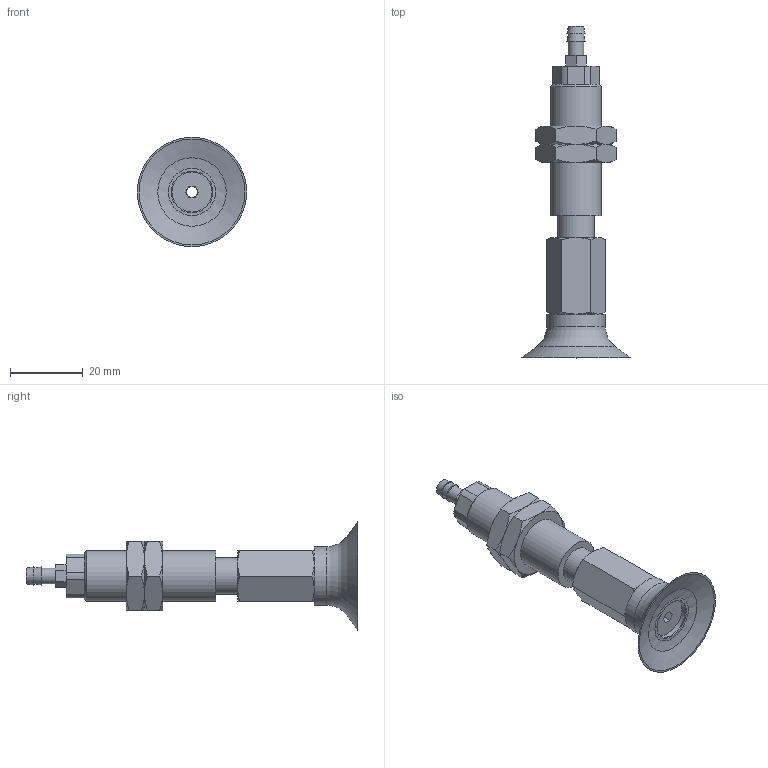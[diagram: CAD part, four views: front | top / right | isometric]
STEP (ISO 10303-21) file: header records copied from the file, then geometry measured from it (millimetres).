
FILE_DESCRIPTION(('STEP AP203'),'1');
FILE_NAME('-T.stp','2025-08-27T06:00:54',(' '),(' '),'Spatial InterOp 3D',' ',' ');
FILE_SCHEMA(('CONFIG_CONTROL_DESIGN'));
Length unit declared in the file: millimetre
Products named in the file (8): BNABPFTS-30-6-※-T; ADAPTER; NAPFTS-30-6-MBODY; TN-PF-30-M6-NAPF; Nut-30-6-s; NAPFTS-30-6-FBODY; BPFG-30-※; T
Assembly tree (8 placements, depth 2):
  BNABPFTS-30-6-※-T
    ADAPTER
    NAPFTS-30-6-MBODY
    TN-PF-30-M6-NAPF
    Nut-30-6-s  x2
    NAPFTS-30-6-FBODY
    BPFG-30-※
    T
Bounding box: 30 x 91 x 30 mm (x, y, z)
Volume: 14244.9 mm3; surface area: 11477.5 mm2
Topology: 8 solids, 8 shells, 147 faces, 307 edges, 186 vertices
Faces by surface type: plane 68, cone 49, cylinder 24, torus 5, bspline 1
Full cylindrical faces by diameter (mm): 3 x4, 4.134 x1, 4.3 x1, 4.917 x1, 5 x1, 6 x2, 10 x2, 11 x2, 12.917 x2, 14 x1, 16 x1
Entity records: 3763 total; most frequent: CARTESIAN_POINT 872, DIRECTION 532, ORIENTED_EDGE 442, AXIS2_PLACEMENT_3D 227, EDGE_CURVE 221, EDGE_LOOP 182, VERTEX_POINT 155, FACE_OUTER_BOUND 147
